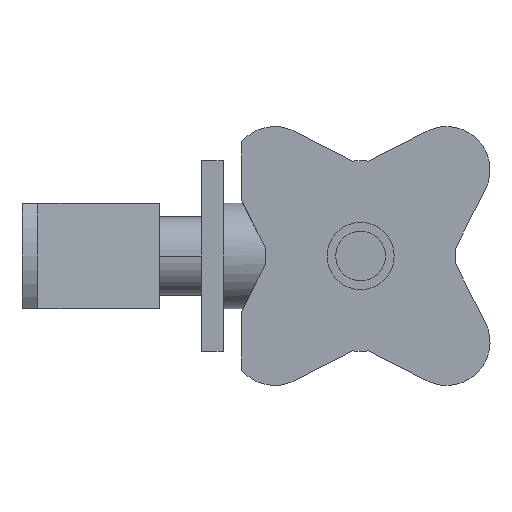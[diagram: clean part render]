
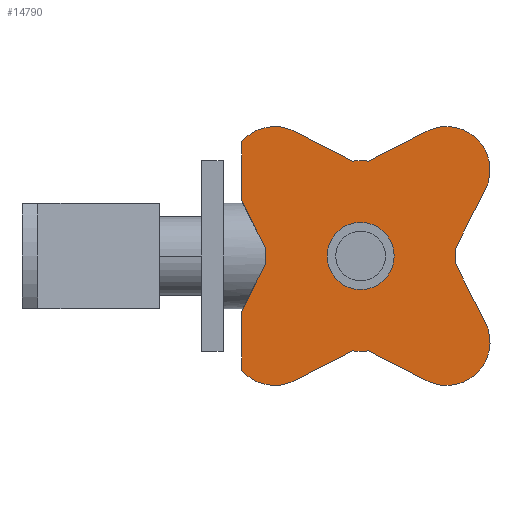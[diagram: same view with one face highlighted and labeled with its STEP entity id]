
A CAD part, left-side view. The second image highlights one B-rep face of the part: STEP entity #14790.
In plain terms, the highlighted planar face has unit normal (-1, 0, 0).
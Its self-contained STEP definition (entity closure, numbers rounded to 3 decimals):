
#60=CARTESIAN_POINT('',(20.281,26.737,
-16.263));
#70=DIRECTION('',(1.,0.,0.));
#80=DIRECTION('',(0.,0.707,
-0.707));
#90=AXIS2_PLACEMENT_3D('',#60,#70,#80);
#100=CIRCLE('',#90,8.2);
#110=CARTESIAN_POINT('',(20.281,19.43,
-12.541));
#120=VERTEX_POINT('',#110);
#130=CARTESIAN_POINT('',(20.281,30.459,
-23.57));
#140=VERTEX_POINT('',#130);
#150=EDGE_CURVE('',#120,#140,#100,.T.);
#480=CARTESIAN_POINT('',(20.281,27.678,
3.645));
#490=DIRECTION('',(0.,0.454,
0.891));
#500=VECTOR('',#490,1.);
#510=LINE('',#480,#500);
#520=CARTESIAN_POINT('',(20.281,25.062,
-1.489));
#530=VERTEX_POINT('',#520);
#540=EDGE_CURVE('',#120,#530,#510,.T.);
#790=CARTESIAN_POINT('',(20.281,43.,
0.));
#800=DIRECTION('',(1.,0.,0.));
#810=DIRECTION('',(0.,0.707,
-0.707));
#820=AXIS2_PLACEMENT_3D('',#790,#800,#810);
#830=CIRCLE('',#820,18.);
#840=CARTESIAN_POINT('',(20.281,25.062,
1.489));
#850=VERTEX_POINT('',#840);
#860=EDGE_CURVE('',#850,#530,#830,.T.);
#1120=CARTESIAN_POINT('',(20.281,34.542,
-17.118));
#1130=DIRECTION('',(0.,-0.454,
0.891));
#1140=VECTOR('',#1130,1.);
#1150=LINE('',#1120,#1140);
#1160=CARTESIAN_POINT('',(20.281,19.43,
12.541));
#1170=VERTEX_POINT('',#1160);
#1180=EDGE_CURVE('',#850,#1170,#1150,.T.);
#1430=CARTESIAN_POINT('',(20.281,26.737,
16.263));
#1440=DIRECTION('',(1.,0.,0.));
#1450=DIRECTION('',(0.,0.707,
-0.707));
#1460=AXIS2_PLACEMENT_3D('',#1430,#1440,#1450);
#1470=CIRCLE('',#1460,8.2);
#1480=CARTESIAN_POINT('',(20.281,30.459,
23.57));
#1490=VERTEX_POINT('',#1480);
#1500=EDGE_CURVE('',#1490,#1170,#1470,.T.);
#1760=CARTESIAN_POINT('',(20.281,60.118,
8.458));
#1770=DIRECTION('',(0.,0.891,
-0.454));
#1780=VECTOR('',#1770,1.);
#1790=LINE('',#1760,#1780);
#1800=CARTESIAN_POINT('',(20.281,41.511,
17.938));
#1810=VERTEX_POINT('',#1800);
#1820=EDGE_CURVE('',#1490,#1810,#1790,.T.);
#2070=CARTESIAN_POINT('',(20.281,43.,
0.));
#2080=DIRECTION('',(1.,0.,0.));
#2090=DIRECTION('',(0.,0.707,
-0.707));
#2100=AXIS2_PLACEMENT_3D('',#2070,#2080,#2090);
#2110=CIRCLE('',#2100,18.);
#2120=CARTESIAN_POINT('',(20.281,44.489,
17.938));
#2130=VERTEX_POINT('',#2120);
#2140=EDGE_CURVE('',#2130,#1810,#2110,.T.);
#2400=CARTESIAN_POINT('',(20.281,39.355,
15.322));
#2410=DIRECTION('',(0.,0.891,
0.454));
#2420=VECTOR('',#2410,1.);
#2430=LINE('',#2400,#2420);
#2440=CARTESIAN_POINT('',(20.281,55.541,
23.57));
#2450=VERTEX_POINT('',#2440);
#2460=EDGE_CURVE('',#2130,#2450,#2430,.T.);
#2710=CARTESIAN_POINT('',(20.281,59.263,
16.263));
#2720=DIRECTION('',(1.,0.,0.));
#2730=DIRECTION('',(0.,0.707,
-0.707));
#2740=AXIS2_PLACEMENT_3D('',#2710,#2720,#2730);
#2750=CIRCLE('',#2740,8.2);
#2760=CARTESIAN_POINT('',(20.281,65.5,
21.588));
#2770=VERTEX_POINT('',#2760);
#2780=EDGE_CURVE('',#2770,#2450,#2750,.T.);
#3040=CARTESIAN_POINT('',(20.281,65.5,
19.861));
#3050=DIRECTION('',(0.,0.,1.));
#3060=VECTOR('',#3050,1.);
#3070=LINE('',#3040,#3060);
#3080=CARTESIAN_POINT('',(20.281,65.5,
10.441));
#3090=VERTEX_POINT('',#3080);
#3100=EDGE_CURVE('',#3090,#2770,#3070,.T.);
#3770=CARTESIAN_POINT('',(20.281,68.153,
15.647));
#3780=DIRECTION('',(0.,0.454,
0.891));
#3790=VECTOR('',#3780,1.);
#3800=LINE('',#3770,#3790);
#3810=CARTESIAN_POINT('',(20.281,60.938,
1.489));
#3820=VERTEX_POINT('',#3810);
#3830=EDGE_CURVE('',#3820,#3090,#3800,.T.);
#4800=CARTESIAN_POINT('',(20.281,60.938,
-1.489));
#4810=VERTEX_POINT('',#4800);
#4840=CARTESIAN_POINT('',(20.281,54.381,
11.381));
#4850=DIRECTION('',(0.,-0.454,
0.891));
#4860=VECTOR('',#4850,1.);
#4870=LINE('',#4840,#4860);
#4880=CARTESIAN_POINT('',(20.281,65.5,
-10.441));
#4890=VERTEX_POINT('',#4880);
#4900=EDGE_CURVE('',#4890,#4810,#4870,.T.);
#5150=CARTESIAN_POINT('',(20.281,65.5,
22.5));
#5160=DIRECTION('',(0.,0.,1.));
#5170=VECTOR('',#5160,1.);
#5180=LINE('',#5150,#5170);
#5190=CARTESIAN_POINT('',(20.281,65.5,
-21.588));
#5200=VERTEX_POINT('',#5190);
#5210=EDGE_CURVE('',#5200,#4890,#5180,.T.);
#5720=CARTESIAN_POINT('',(20.281,59.263,
-16.263));
#5730=DIRECTION('',(1.,0.,0.));
#5740=DIRECTION('',(0.,0.707,
-0.707));
#5750=AXIS2_PLACEMENT_3D('',#5720,#5730,#5740);
#5760=CIRCLE('',#5750,8.2);
#5770=CARTESIAN_POINT('',(20.281,55.541,
-23.57));
#5780=VERTEX_POINT('',#5770);
#5790=EDGE_CURVE('',#5780,#5200,#5760,.T.);
#6050=CARTESIAN_POINT('',(20.281,46.219,
-18.82));
#6060=DIRECTION('',(0.,-0.891,
0.454));
#6070=VECTOR('',#6060,1.);
#6080=LINE('',#6050,#6070);
#6090=CARTESIAN_POINT('',(20.281,44.489,
-17.938));
#6100=VERTEX_POINT('',#6090);
#6110=EDGE_CURVE('',#5780,#6100,#6080,.T.);
#6360=CARTESIAN_POINT('',(20.281,43.,
0.));
#6370=DIRECTION('',(1.,0.,0.));
#6380=DIRECTION('',(0.,0.707,
-0.707));
#6390=AXIS2_PLACEMENT_3D('',#6360,#6370,#6380);
#6400=CIRCLE('',#6390,18.);
#6410=CARTESIAN_POINT('',(20.281,41.511,
-17.938));
#6420=VERTEX_POINT('',#6410);
#6430=EDGE_CURVE('',#6420,#6100,#6400,.T.);
#6690=CARTESIAN_POINT('',(20.281,53.253,
-11.955));
#6700=DIRECTION('',(0.,-0.891,
-0.454));
#6710=VECTOR('',#6700,1.);
#6720=LINE('',#6690,#6710);
#6730=EDGE_CURVE('',#6420,#140,#6720,.T.);
#7360=CARTESIAN_POINT('',(20.281,43.,
0.));
#7370=DIRECTION('',(-1.,0.,0.));
#7380=DIRECTION('',(0.,-0.707,
-0.707));
#7390=AXIS2_PLACEMENT_3D('',#7360,#7370,#7380);
#7400=CIRCLE('',#7390,18.);
#7410=EDGE_CURVE('',#3820,#4810,#7400,.T.);
#13040=CARTESIAN_POINT('',(20.281,43.,6.35));
#13050=VERTEX_POINT('',#13040);
#13100=CARTESIAN_POINT('',(20.281,43.,0.));
#13110=DIRECTION('',(-1.,0.,0.));
#13120=DIRECTION('',(0.,0.,1.));
#13130=AXIS2_PLACEMENT_3D('',#13100,#13110,#13120);
#13140=CIRCLE('',#13130,6.35);
#13150=CARTESIAN_POINT('',(20.281,43.,-6.35));
#13160=VERTEX_POINT('',#13150);
#13170=EDGE_CURVE('',#13160,#13050,#13140,.T.);
#14490=CARTESIAN_POINT('',(20.281,63.4,
20.4));
#14500=DIRECTION('',(-1.,0.,0.));
#14510=DIRECTION('',(0.,0.707,
0.707));
#14520=AXIS2_PLACEMENT_3D('',#14490,#14500,#14510);
#14530=PLANE('',#14520);
#14540=ORIENTED_EDGE('',*,*,#6730,.T.);
#14550=ORIENTED_EDGE('',*,*,#6430,.F.);
#14560=ORIENTED_EDGE('',*,*,#6110,.T.);
#14570=ORIENTED_EDGE('',*,*,#5790,.F.);
#14580=ORIENTED_EDGE('',*,*,#5210,.F.);
#14590=ORIENTED_EDGE('',*,*,#4900,.F.);
#14600=ORIENTED_EDGE('',*,*,#7410,.T.);
#14610=ORIENTED_EDGE('',*,*,#3830,.F.);
#14620=ORIENTED_EDGE('',*,*,#3100,.F.);
#14630=ORIENTED_EDGE('',*,*,#2780,.F.);
#14640=ORIENTED_EDGE('',*,*,#2460,.T.);
#14650=ORIENTED_EDGE('',*,*,#2140,.F.);
#14660=ORIENTED_EDGE('',*,*,#1820,.T.);
#14670=ORIENTED_EDGE('',*,*,#1500,.F.);
#14680=ORIENTED_EDGE('',*,*,#1180,.T.);
#14690=ORIENTED_EDGE('',*,*,#860,.F.);
#14700=ORIENTED_EDGE('',*,*,#540,.T.);
#14710=ORIENTED_EDGE('',*,*,#150,.F.);
#14720=EDGE_LOOP('',(#14710,#14700,#14690,#14680,#14670,#14660,#14650,
#14640,#14630,#14620,#14610,#14600,#14590,#14580,#14570,#14560,#14550,
#14540));
#14730=FACE_OUTER_BOUND('',#14720,.T.);
#14740=EDGE_CURVE('',#13050,#13160,#13140,.T.);
#14750=ORIENTED_EDGE('',*,*,#14740,.F.);
#14760=ORIENTED_EDGE('',*,*,#13170,.F.);
#14770=EDGE_LOOP('',(#14760,#14750));
#14780=FACE_BOUND('',#14770,.T.);
#14790=ADVANCED_FACE('',(#14730,#14780),#14530,.T.);
